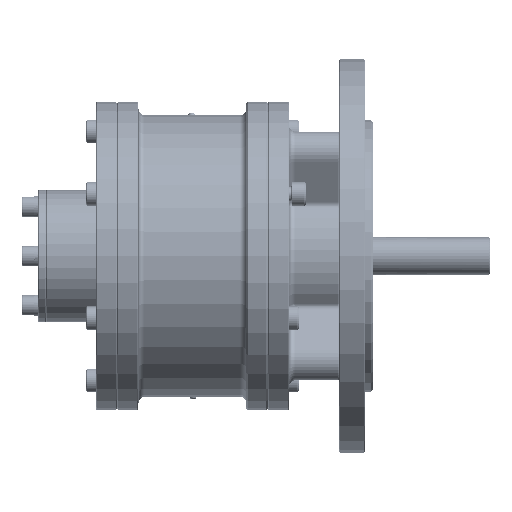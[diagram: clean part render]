
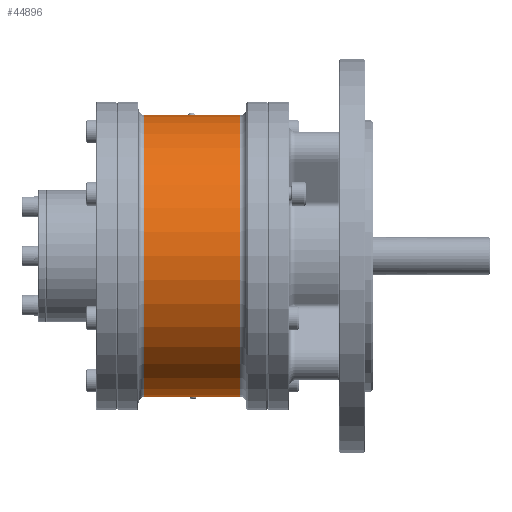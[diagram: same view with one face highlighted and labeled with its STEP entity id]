
A CAD part, front view. The second image highlights one B-rep face of the part: STEP entity #44896.
In plain terms, the highlighted cylindrical face has radius 59.5 mm (diameter 119 mm), a partial arc.
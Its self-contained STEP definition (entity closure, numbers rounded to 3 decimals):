
#5186 = VERTEX_POINT ( 'NONE', #174214 ) ;
#15372 = EDGE_CURVE ( 'NONE', #233446, #68722, #211940, .T. ) ;
#18547 = ORIENTED_EDGE ( 'NONE', *, *, #176483, .T. ) ;
#28403 = DIRECTION ( 'NONE',  ( 1., 0., 0. ) ) ;
#32080 = CARTESIAN_POINT ( 'NONE',  ( -20.25, 0., 0. ) ) ;
#34451 = DIRECTION ( 'NONE',  ( 0., 0., -1. ) ) ;
#37671 = FACE_OUTER_BOUND ( 'NONE', #167309, .T. ) ;
#40923 = EDGE_CURVE ( 'NONE', #54318, #232817, #73812, .T. ) ;
#43352 = CARTESIAN_POINT ( 'NONE',  ( -22.75, 0., -59.5 ) ) ;
#44896 = ADVANCED_FACE ( 'NONE', ( #37671 ), #164378, .T. ) ;
#47665 = LINE ( 'NONE', #110004, #58975 ) ;
#49956 = VECTOR ( 'NONE', #59993, 1000. ) ;
#50010 = ORIENTED_EDGE ( 'NONE', *, *, #40923, .F. ) ;
#52786 = EDGE_CURVE ( 'NONE', #131396, #5186, #109926, .T. ) ;
#54318 = VERTEX_POINT ( 'NONE', #178631 ) ;
#58975 = VECTOR ( 'NONE', #146857, 1000. ) ;
#59993 = DIRECTION ( 'NONE',  ( 1., 0., 0. ) ) ;
#61767 = AXIS2_PLACEMENT_3D ( 'NONE', #191428, #228286, #156717 ) ;
#63826 = DIRECTION ( 'NONE',  ( 1., 0., 0. ) ) ;
#65685 = ORIENTED_EDGE ( 'NONE', *, *, #213731, .F. ) ;
#66513 = ORIENTED_EDGE ( 'NONE', *, *, #162282, .T. ) ;
#68722 = VERTEX_POINT ( 'NONE', #230543 ) ;
#69336 = ORIENTED_EDGE ( 'NONE', *, *, #52786, .T. ) ;
#70443 = VERTEX_POINT ( 'NONE', #163575 ) ;
#72033 = DIRECTION ( 'NONE',  ( 0., 0., -1. ) ) ;
#72799 = DIRECTION ( 'NONE',  ( -1., 0., 0. ) ) ;
#73812 = LINE ( 'NONE', #96062, #217411 ) ;
#77958 = CARTESIAN_POINT ( 'NONE',  ( 20.25, 0., -59.5 ) ) ;
#81761 = VECTOR ( 'NONE', #120033, 1000. ) ;
#85297 = EDGE_CURVE ( 'NONE', #232817, #68722, #110010, .T. ) ;
#92312 = ORIENTED_EDGE ( 'NONE', *, *, #85297, .F. ) ;
#96062 = CARTESIAN_POINT ( 'NONE',  ( -15., 0., 59.5 ) ) ;
#100281 = CARTESIAN_POINT ( 'NONE',  ( -22.75, 0., 59.5 ) ) ;
#102813 = CARTESIAN_POINT ( 'NONE',  ( -22.75, 0., 59.5 ) ) ;
#109926 = CIRCLE ( 'NONE', #181108, 59.5 ) ;
#110004 = CARTESIAN_POINT ( 'NONE',  ( -15., 0., -59.5 ) ) ;
#110010 = LINE ( 'NONE', #102813, #81761 ) ;
#116711 = CARTESIAN_POINT ( 'NONE',  ( -22.75, 0., -59.5 ) ) ;
#116815 = LINE ( 'NONE', #100281, #122422 ) ;
#120033 = DIRECTION ( 'NONE',  ( 1., 0., 0. ) ) ;
#122422 = VECTOR ( 'NONE', #28403, 1000. ) ;
#131396 = VERTEX_POINT ( 'NONE', #145007 ) ;
#136156 = CARTESIAN_POINT ( 'NONE',  ( 17.5, 0., 59.5 ) ) ;
#138375 = ORIENTED_EDGE ( 'NONE', *, *, #15372, .T. ) ;
#140064 = LINE ( 'NONE', #116711, #49956 ) ;
#145007 = CARTESIAN_POINT ( 'NONE',  ( -20.25, 0., 59.5 ) ) ;
#146857 = DIRECTION ( 'NONE',  ( 1., 0., 0. ) ) ;
#156595 = LINE ( 'NONE', #43352, #215776 ) ;
#156717 = DIRECTION ( 'NONE',  ( 0., 0., -1. ) ) ;
#158799 = CARTESIAN_POINT ( 'NONE',  ( 17.5, 0., -59.5 ) ) ;
#162282 = EDGE_CURVE ( 'NONE', #70443, #170986, #47665, .T. ) ;
#163575 = CARTESIAN_POINT ( 'NONE',  ( -17.5, 0., -59.5 ) ) ;
#164378 = CYLINDRICAL_SURFACE ( 'NONE', #61767, 59.5 ) ;
#167309 = EDGE_LOOP ( 'NONE', ( #65685, #69336, #18547, #66513, #176995, #138375, #92312, #50010 ) ) ;
#170986 = VERTEX_POINT ( 'NONE', #158799 ) ;
#174214 = CARTESIAN_POINT ( 'NONE',  ( -20.25, 0., -59.5 ) ) ;
#176483 = EDGE_CURVE ( 'NONE', #5186, #70443, #140064, .T. ) ;
#176995 = ORIENTED_EDGE ( 'NONE', *, *, #223077, .T. ) ;
#178631 = CARTESIAN_POINT ( 'NONE',  ( -17.5, 0., 59.5 ) ) ;
#181108 = AXIS2_PLACEMENT_3D ( 'NONE', #32080, #229647, #34451 ) ;
#182995 = CARTESIAN_POINT ( 'NONE',  ( 20.25, 0., 0. ) ) ;
#184185 = DIRECTION ( 'NONE',  ( 1., 0., 0. ) ) ;
#191428 = CARTESIAN_POINT ( 'NONE',  ( -22.75, 0., 0. ) ) ;
#198108 = AXIS2_PLACEMENT_3D ( 'NONE', #182995, #72799, #72033 ) ;
#211940 = CIRCLE ( 'NONE', #198108, 59.5 ) ;
#213731 = EDGE_CURVE ( 'NONE', #131396, #54318, #116815, .T. ) ;
#215776 = VECTOR ( 'NONE', #63826, 1000. ) ;
#217411 = VECTOR ( 'NONE', #184185, 1000. ) ;
#223077 = EDGE_CURVE ( 'NONE', #170986, #233446, #156595, .T. ) ;
#228286 = DIRECTION ( 'NONE',  ( 1., 0., 0. ) ) ;
#229647 = DIRECTION ( 'NONE',  ( 1., 0., 0. ) ) ;
#230543 = CARTESIAN_POINT ( 'NONE',  ( 20.25, 0., 59.5 ) ) ;
#232817 = VERTEX_POINT ( 'NONE', #136156 ) ;
#233446 = VERTEX_POINT ( 'NONE', #77958 ) ;
